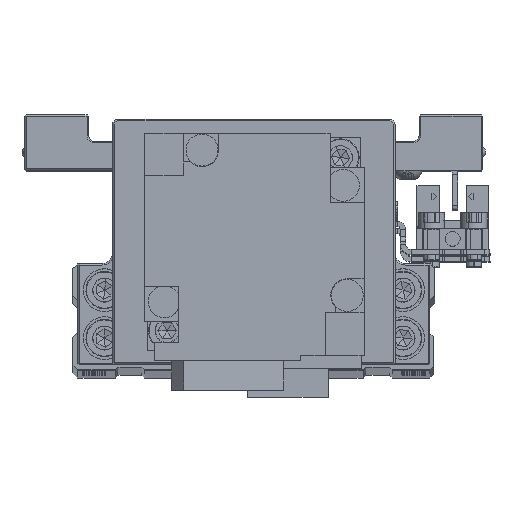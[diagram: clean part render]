
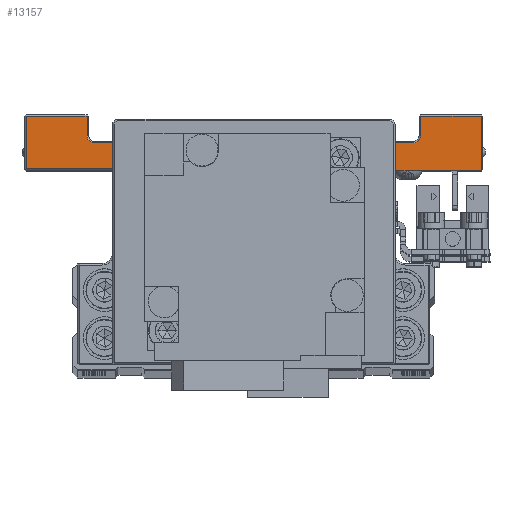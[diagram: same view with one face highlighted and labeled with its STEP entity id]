
A CAD part, top view. The second image highlights one B-rep face of the part: STEP entity #13157.
In plain terms, the highlighted planar face has unit normal (0, 0, 1) as drawn and (1, 0, 0) by its records, which use the part's own axes.
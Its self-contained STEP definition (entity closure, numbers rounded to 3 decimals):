
#232 = LINE ( 'NONE', #12002, #3275 ) ;
#463 = VERTEX_POINT ( 'NONE', #10362 ) ;
#757 = CIRCLE ( 'NONE', #22311, 1.3 ) ;
#1148 = EDGE_LOOP ( 'NONE', ( #6395, #33170, #1439, #19348, #14267, #21138, #30370, #9644, #14247, #18481, #35055, #35827, #27065, #18926 ) ) ;
#1439 = ORIENTED_EDGE ( 'NONE', *, *, #3887, .T. ) ;
#1874 = DIRECTION ( 'NONE',  ( -1., 0., 0. ) ) ;
#1949 = VECTOR ( 'NONE', #25669, 1000. ) ;
#2149 = LINE ( 'NONE', #13919, #1949 ) ;
#2967 = VERTEX_POINT ( 'NONE', #11598 ) ;
#3275 = VECTOR ( 'NONE', #23755, 1000. ) ;
#3454 = CARTESIAN_POINT ( 'NONE',  ( 45., 17.7, -42.7 ) ) ;
#3628 = DIRECTION ( 'NONE',  ( 0., 0., -1. ) ) ;
#3666 = CARTESIAN_POINT ( 'NONE',  ( 45., 7.5, -19.7 ) ) ;
#3705 = DIRECTION ( 'NONE',  ( 0., 0., -1. ) ) ;
#3732 = CARTESIAN_POINT ( 'NONE',  ( 45., 7.5, -20. ) ) ;
#3887 = EDGE_CURVE ( 'NONE', #32678, #28442, #24412, .T. ) ;
#4121 = EDGE_CURVE ( 'NONE', #33834, #2967, #37827, .T. ) ;
#4249 = EDGE_CURVE ( 'NONE', #31703, #11279, #23282, .T. ) ;
#5904 = VERTEX_POINT ( 'NONE', #28980 ) ;
#6354 = LINE ( 'NONE', #18144, #35588 ) ;
#6395 = ORIENTED_EDGE ( 'NONE', *, *, #9279, .T. ) ;
#6668 = AXIS2_PLACEMENT_3D ( 'NONE', #12232, #23987, #35720 ) ;
#7156 = VECTOR ( 'NONE', #9748, 1000. ) ;
#7447 = LINE ( 'NONE', #19225, #28267 ) ;
#7794 = CARTESIAN_POINT ( 'NONE',  ( 45., 7.8, 19.7 ) ) ;
#8473 = CARTESIAN_POINT ( 'NONE',  ( 45., 7.5, -42.7 ) ) ;
#8583 = LINE ( 'NONE', #20360, #37401 ) ;
#8732 = EDGE_CURVE ( 'NONE', #9135, #31703, #8583, .T. ) ;
#9135 = VERTEX_POINT ( 'NONE', #17576 ) ;
#9230 = CARTESIAN_POINT ( 'NONE',  ( 45., 7.5, 42.7 ) ) ;
#9279 = EDGE_CURVE ( 'NONE', #11130, #5904, #30077, .T. ) ;
#9386 = VECTOR ( 'NONE', #36685, 1000. ) ;
#9644 = ORIENTED_EDGE ( 'NONE', *, *, #4249, .T. ) ;
#9748 = DIRECTION ( 'NONE',  ( 0., 1., 0. ) ) ;
#10104 = VERTEX_POINT ( 'NONE', #24569 ) ;
#10362 = CARTESIAN_POINT ( 'NONE',  ( 45., 17.7, 31.3 ) ) ;
#10514 = EDGE_CURVE ( 'NONE', #5904, #32678, #18369, .T. ) ;
#11130 = VERTEX_POINT ( 'NONE', #20158 ) ;
#11279 = VERTEX_POINT ( 'NONE', #15549 ) ;
#11458 = CARTESIAN_POINT ( 'NONE',  ( 45., 7.5, -31.3 ) ) ;
#11598 = CARTESIAN_POINT ( 'NONE',  ( 45., 14., -31.3 ) ) ;
#11916 = VECTOR ( 'NONE', #21007, 1000. ) ;
#12002 = CARTESIAN_POINT ( 'NONE',  ( 45., 17.7, -20. ) ) ;
#12216 = VECTOR ( 'NONE', #23206, 1000. ) ;
#12232 = CARTESIAN_POINT ( 'NONE',  ( 45., 14., 30. ) ) ;
#12266 = VECTOR ( 'NONE', #15457, 1000. ) ;
#13066 = VECTOR ( 'NONE', #3628, 1000. ) ;
#13157 = ADVANCED_FACE ( 'NONE', ( #18398 ), #30145, .F. ) ;
#13214 = LINE ( 'NONE', #24965, #9386 ) ;
#13648 = DIRECTION ( 'NONE',  ( 0., 0., 1. ) ) ;
#13919 = CARTESIAN_POINT ( 'NONE',  ( 45., 7.5, 31.3 ) ) ;
#14247 = ORIENTED_EDGE ( 'NONE', *, *, #37363, .T. ) ;
#14267 = ORIENTED_EDGE ( 'NONE', *, *, #4121, .T. ) ;
#14759 = EDGE_CURVE ( 'NONE', #463, #21678, #232, .T. ) ;
#15457 = DIRECTION ( 'NONE',  ( 0., 1., 0. ) ) ;
#15521 = DIRECTION ( 'NONE',  ( -1., 0., 0. ) ) ;
#15549 = CARTESIAN_POINT ( 'NONE',  ( 45., 14., 31.3 ) ) ;
#17576 = CARTESIAN_POINT ( 'NONE',  ( 45., 12.7, -30. ) ) ;
#18144 = CARTESIAN_POINT ( 'NONE',  ( 45., -8.2, -20. ) ) ;
#18188 = CARTESIAN_POINT ( 'NONE',  ( 45., -8.2, 19.7 ) ) ;
#18306 = LINE ( 'NONE', #30041, #13066 ) ;
#18369 = LINE ( 'NONE', #30117, #25221 ) ;
#18398 = FACE_OUTER_BOUND ( 'NONE', #1148, .T. ) ;
#18481 = ORIENTED_EDGE ( 'NONE', *, *, #14759, .T. ) ;
#18926 = ORIENTED_EDGE ( 'NONE', *, *, #28439, .T. ) ;
#19225 = CARTESIAN_POINT ( 'NONE',  ( 45., 7.5, 19.7 ) ) ;
#19348 = ORIENTED_EDGE ( 'NONE', *, *, #30819, .T. ) ;
#20158 = CARTESIAN_POINT ( 'NONE',  ( 45., -8.2, -19.7 ) ) ;
#20189 = CARTESIAN_POINT ( 'NONE',  ( 45., 17.7, 42.7 ) ) ;
#20360 = CARTESIAN_POINT ( 'NONE',  ( 45., 12.7, 30. ) ) ;
#21007 = DIRECTION ( 'NONE',  ( 0., -1., 0. ) ) ;
#21138 = ORIENTED_EDGE ( 'NONE', *, *, #37762, .T. ) ;
#21678 = VERTEX_POINT ( 'NONE', #20189 ) ;
#22044 = VERTEX_POINT ( 'NONE', #7794 ) ;
#22311 = AXIS2_PLACEMENT_3D ( 'NONE', #28290, #1874, #13648 ) ;
#23206 = DIRECTION ( 'NONE',  ( 0., -1., 0. ) ) ;
#23282 = CIRCLE ( 'NONE', #6668, 1.3 ) ;
#23755 = DIRECTION ( 'NONE',  ( 0., 0., 1. ) ) ;
#23765 = EDGE_CURVE ( 'NONE', #21678, #10104, #35622, .T. ) ;
#23987 = DIRECTION ( 'NONE',  ( -1., 0., 0. ) ) ;
#24412 = LINE ( 'NONE', #36141, #7156 ) ;
#24569 = CARTESIAN_POINT ( 'NONE',  ( 45., 7.8, 42.7 ) ) ;
#24965 = CARTESIAN_POINT ( 'NONE',  ( 45., 17.7, -20. ) ) ;
#25221 = VECTOR ( 'NONE', #3705, 1000. ) ;
#25669 = DIRECTION ( 'NONE',  ( 0., 1., 0. ) ) ;
#27065 = ORIENTED_EDGE ( 'NONE', *, *, #29096, .T. ) ;
#27264 = DIRECTION ( 'NONE',  ( 0., 0., 1. ) ) ;
#28028 = VERTEX_POINT ( 'NONE', #18188 ) ;
#28267 = VECTOR ( 'NONE', #30976, 1000. ) ;
#28290 = CARTESIAN_POINT ( 'NONE',  ( 45., 14., -30. ) ) ;
#28439 = EDGE_CURVE ( 'NONE', #28028, #11130, #6354, .T. ) ;
#28442 = VERTEX_POINT ( 'NONE', #3454 ) ;
#28980 = CARTESIAN_POINT ( 'NONE',  ( 45., 7.5, -19.7 ) ) ;
#29096 = EDGE_CURVE ( 'NONE', #22044, #28028, #7447, .T. ) ;
#29882 = DIRECTION ( 'NONE',  ( 0., 0., -1. ) ) ;
#30041 = CARTESIAN_POINT ( 'NONE',  ( 45., 7.8, 20. ) ) ;
#30077 = LINE ( 'NONE', #3666, #12266 ) ;
#30117 = CARTESIAN_POINT ( 'NONE',  ( 45., 7.5, 43. ) ) ;
#30145 = PLANE ( 'NONE',  #32192 ) ;
#30370 = ORIENTED_EDGE ( 'NONE', *, *, #8732, .T. ) ;
#30819 = EDGE_CURVE ( 'NONE', #28442, #33834, #13214, .T. ) ;
#30976 = DIRECTION ( 'NONE',  ( 0., -1., 0. ) ) ;
#31703 = VERTEX_POINT ( 'NONE', #34225 ) ;
#32102 = DIRECTION ( 'NONE',  ( 0., 0., 1. ) ) ;
#32192 = AXIS2_PLACEMENT_3D ( 'NONE', #3732, #15521, #27264 ) ;
#32678 = VERTEX_POINT ( 'NONE', #8473 ) ;
#33170 = ORIENTED_EDGE ( 'NONE', *, *, #10514, .T. ) ;
#33763 = CARTESIAN_POINT ( 'NONE',  ( 45., 17.7, -31.3 ) ) ;
#33834 = VERTEX_POINT ( 'NONE', #33763 ) ;
#34225 = CARTESIAN_POINT ( 'NONE',  ( 45., 12.7, 30. ) ) ;
#35055 = ORIENTED_EDGE ( 'NONE', *, *, #23765, .T. ) ;
#35588 = VECTOR ( 'NONE', #29882, 1000. ) ;
#35622 = LINE ( 'NONE', #9230, #11916 ) ;
#35720 = DIRECTION ( 'NONE',  ( 0., 0., 1. ) ) ;
#35827 = ORIENTED_EDGE ( 'NONE', *, *, #37544, .T. ) ;
#36141 = CARTESIAN_POINT ( 'NONE',  ( 45., 7.5, -42.7 ) ) ;
#36685 = DIRECTION ( 'NONE',  ( 0., 0., 1. ) ) ;
#37363 = EDGE_CURVE ( 'NONE', #11279, #463, #2149, .T. ) ;
#37401 = VECTOR ( 'NONE', #32102, 1000. ) ;
#37544 = EDGE_CURVE ( 'NONE', #10104, #22044, #18306, .T. ) ;
#37762 = EDGE_CURVE ( 'NONE', #2967, #9135, #757, .T. ) ;
#37827 = LINE ( 'NONE', #11458, #12216 ) ;
